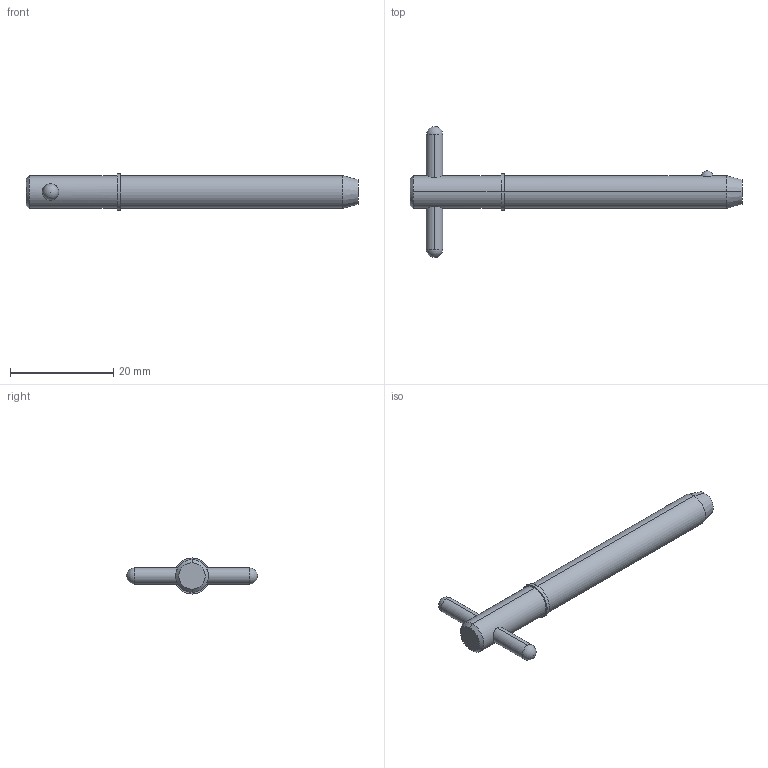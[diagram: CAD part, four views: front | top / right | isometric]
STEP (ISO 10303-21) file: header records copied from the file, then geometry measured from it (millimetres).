
FILE_DESCRIPTION (( 'STEP AP203' ), '1' );
FILE_NAME ('33018.W2515.step', '2024-11-19T17:08:13', ( '' ), ( '' ), 'SwSTEP 2.0', 'SolidWorks 2019', '' );
FILE_SCHEMA (( 'CONFIG_CONTROL_DESIGN' ));
Length unit declared in the file: millimetre
Products named in the file (3): 33018.W2515; Part2_33018.W2515; Part1_33018.W2515
Assembly tree (2 placements, depth 2):
  33018.W2515
    Part1_33018.W2515
    Part2_33018.W2515
Bounding box: 64.31 x 25.4 x 6.99 mm (x, y, z)
Volume: 2161.9 mm3; surface area: 1632.5 mm2
Topology: 2 solids, 2 shells, 22 faces, 47 edges, 30 vertices
Faces by surface type: cylinder 10, sphere 4, cone 4, plane 4
Entity records: 993 total; most frequent: CARTESIAN_POINT 236, DIRECTION 110, ORIENTED_EDGE 82, AXIS2_PLACEMENT_3D 48, EDGE_CURVE 41, EDGE_LOOP 27, PERSON_AND_ORGANIZATION 26, VERTEX_POINT 26
